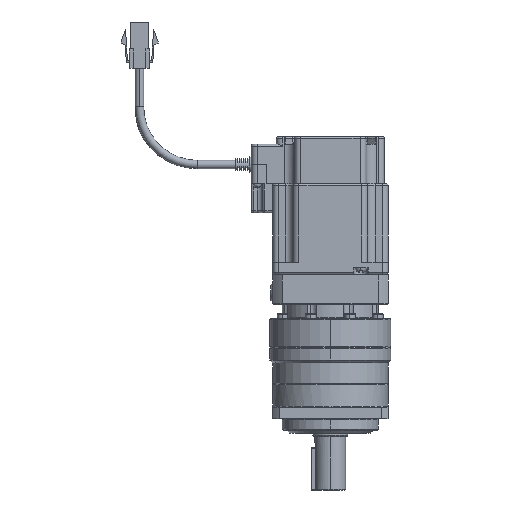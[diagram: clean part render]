
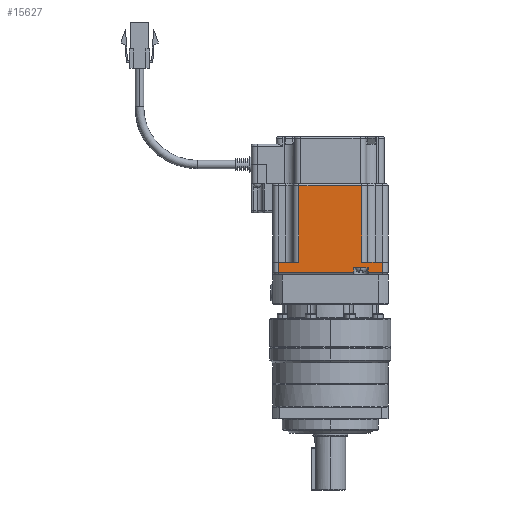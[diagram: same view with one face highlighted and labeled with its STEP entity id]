
A CAD part, left-side view. The second image highlights one B-rep face of the part: STEP entity #15627.
In plain terms, the highlighted planar face has unit normal (-1, 0, 0) as drawn and (1, 0, 0) by its records, which use the part's own axes.
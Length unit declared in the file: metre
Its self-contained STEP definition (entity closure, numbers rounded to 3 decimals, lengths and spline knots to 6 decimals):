
#4287 = FACE_OUTER_BOUND ( 'NONE', #13434, .T. ) ;
#6888 = CARTESIAN_POINT ( 'NONE',  ( 0.092176, -0.014308, -0.2057 ) ) ;
#6890 = DIRECTION ( 'NONE',  ( 0., -1., 0. ) ) ;
#6907 = CARTESIAN_POINT ( 'NONE',  ( 0.092176, -0.014308, -0.211 ) ) ;
#6908 = DIRECTION ( 'NONE',  ( 0., 1., 0. ) ) ;
#6912 = CARTESIAN_POINT ( 'NONE',  ( 0.092176, -0.041308, -0.1885 ) ) ;
#6913 = DIRECTION ( 'NONE',  ( 0., 0., -1. ) ) ;
#6914 = CARTESIAN_POINT ( 'NONE',  ( 0.092176, 0.005292, -0.1885 ) ) ;
#6915 = DIRECTION ( 'NONE',  ( 0., 0., -1. ) ) ;
#6919 = CARTESIAN_POINT ( 'NONE',  ( 0.092176, -0.002108, -0.1885 ) ) ;
#6920 = DIRECTION ( 'NONE',  ( 0., 0., 1. ) ) ;
#6925 = CARTESIAN_POINT ( 'NONE',  ( 0.092176, -0.014308, -0.2085 ) ) ;
#6926 = DIRECTION ( 'NONE',  ( 0., 1., 0. ) ) ;
#6927 = DIRECTION ( 'NONE',  ( 0., 0., 1. ) ) ;
#6931 = CARTESIAN_POINT ( 'NONE',  ( 0.092176, -0.014308, -0.211 ) ) ;
#6932 = DIRECTION ( 'NONE',  ( 0., 1., 0. ) ) ;
#6934 = CARTESIAN_POINT ( 'NONE',  ( 0.092176, 0.012692, -0.1885 ) ) ;
#6951 = DIRECTION ( 'NONE',  ( 0., -1., 0. ) ) ;
#6953 = CARTESIAN_POINT ( 'NONE',  ( 0.092176, -0.014308, -0.2057 ) ) ;
#7028 = CARTESIAN_POINT ( 'NONE',  ( 0.092176, -0.030608, -0.1885 ) ) ;
#7034 = DIRECTION ( 'NONE',  ( 0., 0., -1. ) ) ;
#7036 = DIRECTION ( 'NONE',  ( 0., 0., -1. ) ) ;
#7038 = CARTESIAN_POINT ( 'NONE',  ( 0.092176, 0.001992, -0.18535 ) ) ;
#7042 = CARTESIAN_POINT ( 'NONE',  ( 0.092176, -0.014308, -0.166 ) ) ;
#7044 = DIRECTION ( 'NONE',  ( 0., 1., 0. ) ) ;
#8014 = LINE ( 'NONE', #6888, #8017 ) ;
#8017 = VECTOR ( 'NONE', #6890, 1. ) ;
#8024 = LINE ( 'NONE', #6934, #8050 ) ;
#8028 = LINE ( 'NONE', #6912, #8031 ) ;
#8031 = VECTOR ( 'NONE', #6913, 1. ) ;
#8032 = LINE ( 'NONE', #6907, #8034 ) ;
#8033 = LINE ( 'NONE', #6919, #8036 ) ;
#8034 = VECTOR ( 'NONE', #6908, 1. ) ;
#8036 = VECTOR ( 'NONE', #6920, 1. ) ;
#8039 = LINE ( 'NONE', #6925, #8042 ) ;
#8042 = VECTOR ( 'NONE', #6926, 1. ) ;
#8043 = LINE ( 'NONE', #6914, #8045 ) ;
#8044 = LINE ( 'NONE', #6931, #8047 ) ;
#8045 = VECTOR ( 'NONE', #6915, 1. ) ;
#8047 = VECTOR ( 'NONE', #6932, 1. ) ;
#8050 = VECTOR ( 'NONE', #6927, 1. ) ;
#8059 = LINE ( 'NONE', #6953, #8063 ) ;
#8063 = VECTOR ( 'NONE', #6951, 1. ) ;
#8121 = LINE ( 'NONE', #7028, #8127 ) ;
#8124 = LINE ( 'NONE', #7038, #8130 ) ;
#8127 = VECTOR ( 'NONE', #7036, 1. ) ;
#8129 = LINE ( 'NONE', #7042, #8132 ) ;
#8130 = VECTOR ( 'NONE', #7034, 1. ) ;
#8132 = VECTOR ( 'NONE', #7044, 1. ) ;
#12039 = EDGE_CURVE ( 'NONE', #16626, #16632, #8014, .T. ) ;
#12048 = EDGE_CURVE ( 'NONE', #16632, #16583, #8028, .T. ) ;
#12050 = EDGE_CURVE ( 'NONE', #16583, #16640, #8032, .T. ) ;
#12051 = EDGE_CURVE ( 'NONE', #16640, #16638, #8033, .T. ) ;
#12054 = EDGE_CURVE ( 'NONE', #16638, #16636, #8039, .T. ) ;
#12056 = EDGE_CURVE ( 'NONE', #16636, #16639, #8043, .T. ) ;
#12057 = EDGE_CURVE ( 'NONE', #16639, #16596, #8044, .T. ) ;
#12059 = EDGE_CURVE ( 'NONE', #16596, #16641, #8024, .T. ) ;
#12067 = EDGE_CURVE ( 'NONE', #16641, #16647, #8059, .T. ) ;
#12103 = EDGE_CURVE ( 'NONE', #16670, #16626, #8121, .T. ) ;
#12105 = EDGE_CURVE ( 'NONE', #16667, #16647, #8124, .T. ) ;
#12106 = EDGE_CURVE ( 'NONE', #16670, #16667, #8129, .T. ) ;
#13434 = EDGE_LOOP ( 'NONE', ( #19691, #19692, #19693, #19694, #19695, #19696, #19697, #19698, #19699, #19700, #19701, #19702 ) ) ;
#15627 = ADVANCED_FACE ( 'NONE', ( #4287 ), #24019, .T. ) ;
#16583 = VERTEX_POINT ( 'NONE', #45912 ) ;
#16596 = VERTEX_POINT ( 'NONE', #45925 ) ;
#16626 = VERTEX_POINT ( 'NONE', #45955 ) ;
#16632 = VERTEX_POINT ( 'NONE', #45961 ) ;
#16636 = VERTEX_POINT ( 'NONE', #45965 ) ;
#16638 = VERTEX_POINT ( 'NONE', #45967 ) ;
#16639 = VERTEX_POINT ( 'NONE', #45968 ) ;
#16640 = VERTEX_POINT ( 'NONE', #45969 ) ;
#16641 = VERTEX_POINT ( 'NONE', #45970 ) ;
#16647 = VERTEX_POINT ( 'NONE', #45976 ) ;
#16667 = VERTEX_POINT ( 'NONE', #45996 ) ;
#16670 = VERTEX_POINT ( 'NONE', #45999 ) ;
#19691 = ORIENTED_EDGE ( 'NONE', *, *, #12067, .T. ) ;
#19692 = ORIENTED_EDGE ( 'NONE', *, *, #12105, .F. ) ;
#19693 = ORIENTED_EDGE ( 'NONE', *, *, #12106, .F. ) ;
#19694 = ORIENTED_EDGE ( 'NONE', *, *, #12103, .T. ) ;
#19695 = ORIENTED_EDGE ( 'NONE', *, *, #12039, .T. ) ;
#19696 = ORIENTED_EDGE ( 'NONE', *, *, #12048, .T. ) ;
#19697 = ORIENTED_EDGE ( 'NONE', *, *, #12050, .T. ) ;
#19698 = ORIENTED_EDGE ( 'NONE', *, *, #12051, .T. ) ;
#19699 = ORIENTED_EDGE ( 'NONE', *, *, #12054, .T. ) ;
#19700 = ORIENTED_EDGE ( 'NONE', *, *, #12056, .T. ) ;
#19701 = ORIENTED_EDGE ( 'NONE', *, *, #12057, .T. ) ;
#19702 = ORIENTED_EDGE ( 'NONE', *, *, #12059, .T. ) ;
#24014 = CARTESIAN_POINT ( 'NONE',  ( 0.092176, -0.044308, -0.212 ) ) ;
#24019 = PLANE ( 'NONE',  #47917 ) ;
#24022 = DIRECTION ( 'NONE',  ( 1., 0., 0. ) ) ;
#24023 = DIRECTION ( 'NONE',  ( 0., 1., 0. ) ) ;
#45912 = CARTESIAN_POINT ( 'NONE',  ( 0.092176, -0.041308, -0.211 ) ) ;
#45925 = CARTESIAN_POINT ( 'NONE',  ( 0.092176, 0.012692, -0.211 ) ) ;
#45955 = CARTESIAN_POINT ( 'NONE',  ( 0.092176, -0.030608, -0.2057 ) ) ;
#45961 = CARTESIAN_POINT ( 'NONE',  ( 0.092176, -0.041308, -0.2057 ) ) ;
#45965 = CARTESIAN_POINT ( 'NONE',  ( 0.092176, 0.005292, -0.2085 ) ) ;
#45967 = CARTESIAN_POINT ( 'NONE',  ( 0.092176, -0.002108, -0.2085 ) ) ;
#45968 = CARTESIAN_POINT ( 'NONE',  ( 0.092176, 0.005292, -0.211 ) ) ;
#45969 = CARTESIAN_POINT ( 'NONE',  ( 0.092176, -0.002108, -0.211 ) ) ;
#45970 = CARTESIAN_POINT ( 'NONE',  ( 0.092176, 0.012692, -0.2057 ) ) ;
#45976 = CARTESIAN_POINT ( 'NONE',  ( 0.092176, 0.001992, -0.2057 ) ) ;
#45996 = CARTESIAN_POINT ( 'NONE',  ( 0.092176, 0.001992, -0.166 ) ) ;
#45999 = CARTESIAN_POINT ( 'NONE',  ( 0.092176, -0.030608, -0.166 ) ) ;
#47917 = AXIS2_PLACEMENT_3D ( 'NONE', #24014, #24022, #24023 ) ;
